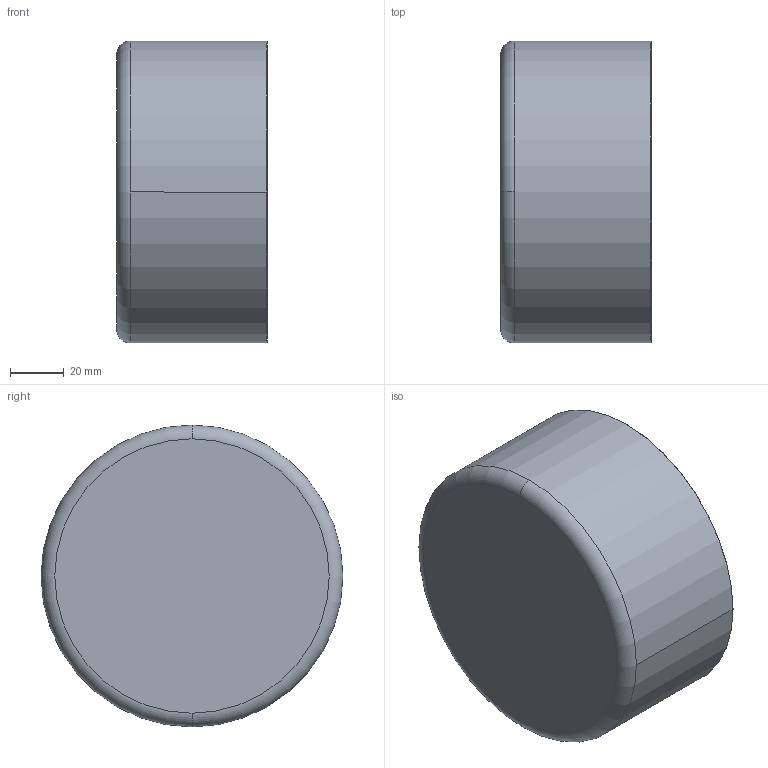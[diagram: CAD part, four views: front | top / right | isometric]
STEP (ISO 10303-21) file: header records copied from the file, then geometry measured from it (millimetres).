
FILE_DESCRIPTION((''),'2;1');
FILE_NAME('C:\sanha_work\5130\f\5301108.stp','2005-10-21T18:20:01',('Kris'),(''),'Autodesk Inventor 8','Autodesk Inventor 8','');
FILE_SCHEMA(('AUTOMOTIVE_DESIGN { 1 0 10303 214 1 1 1 1 }'));
Length unit declared in the file: millimetre
Products named in the file (1): 5301108
Bounding box: 56.1 x 112.2 x 112.2 mm (x, y, z)
Volume: 58692.9 mm3; surface area: 56565.7 mm2
Topology: 1 solids, 1 shells, 15 faces, 34 edges, 22 vertices
Faces by surface type: torus 4, cylinder 4, cone 4, plane 3
Entity records: 461 total; most frequent: DIRECTION 92, CARTESIAN_POINT 72, ORIENTED_EDGE 68, AXIS2_PLACEMENT_3D 42, EDGE_CURVE 34, CIRCLE 26, VERTEX_POINT 22, EDGE_LOOP 16
